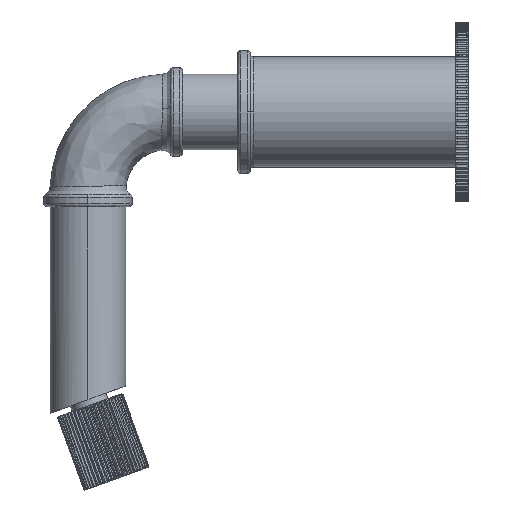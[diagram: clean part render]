
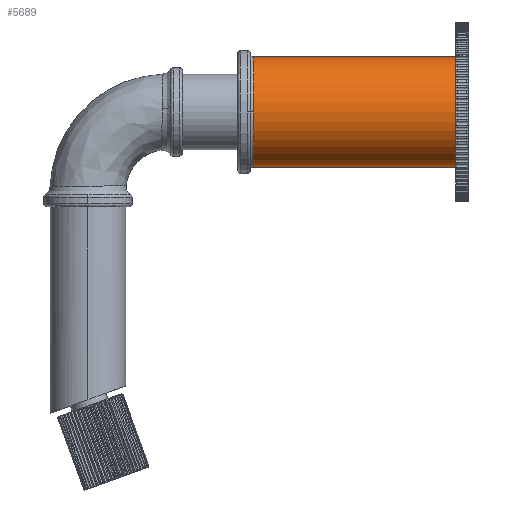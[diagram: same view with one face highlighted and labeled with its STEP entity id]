
A CAD part, left-side view. The second image highlights one B-rep face of the part: STEP entity #5689.
In plain terms, the highlighted cylindrical face has radius 17.5 mm (diameter 35 mm), a partial arc.
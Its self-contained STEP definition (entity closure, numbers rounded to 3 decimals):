
#759 = CARTESIAN_POINT ( 'NONE',  ( -9.893, 50.042, 0. ) ) ;
#3966 = EDGE_CURVE ( 'NONE', #54309, #91614, #57891, .T. ) ;
#4179 = CARTESIAN_POINT ( 'NONE',  ( 7.607, -13.968, 17.5 ) ) ;
#4781 = DIRECTION ( 'NONE',  ( 0., -1., 0. ) ) ;
#5003 = DIRECTION ( 'NONE',  ( 0., 0., -1. ) ) ;
#5689 = ADVANCED_FACE ( 'NONE', ( #82332 ), #8721, .T. ) ;
#8116 = DIRECTION ( 'NONE',  ( 0., -1., 0. ) ) ;
#8721 = CYLINDRICAL_SURFACE ( 'NONE', #93021, 17.5 ) ;
#11372 = ORIENTED_EDGE ( 'NONE', *, *, #92137, .T. ) ;
#13049 = CARTESIAN_POINT ( 'NONE',  ( 7.607, 50.042, 0. ) ) ;
#20449 = DIRECTION ( 'NONE',  ( 0., -1., 0. ) ) ;
#24754 = EDGE_CURVE ( 'NONE', #88185, #80532, #98020, .T. ) ;
#26191 = CARTESIAN_POINT ( 'NONE',  ( 7.607, 50.042, 17.5 ) ) ;
#27005 = CARTESIAN_POINT ( 'NONE',  ( 7.607, -13.968, 0. ) ) ;
#29584 = LINE ( 'NONE', #66679, #119625 ) ;
#30025 = EDGE_CURVE ( 'NONE', #100033, #91614, #105134, .T. ) ;
#35729 = EDGE_CURVE ( 'NONE', #80532, #54309, #29584, .T. ) ;
#37979 = ORIENTED_EDGE ( 'NONE', *, *, #35729, .T. ) ;
#42573 = DIRECTION ( 'NONE',  ( 0., 0., -1. ) ) ;
#51236 = DIRECTION ( 'NONE',  ( 0., -1., 0. ) ) ;
#54309 = VERTEX_POINT ( 'NONE', #84359 ) ;
#55036 = AXIS2_PLACEMENT_3D ( 'NONE', #70106, #51236, #5003 ) ;
#57891 = CIRCLE ( 'NONE', #73455, 17.5 ) ;
#60212 = DIRECTION ( 'NONE',  ( 0., 1., 0. ) ) ;
#63312 = ORIENTED_EDGE ( 'NONE', *, *, #3966, .T. ) ;
#66679 = CARTESIAN_POINT ( 'NONE',  ( 7.607, -13.968, -17.5 ) ) ;
#67820 = DIRECTION ( 'NONE',  ( 0., 0., -1. ) ) ;
#68736 = CARTESIAN_POINT ( 'NONE',  ( 7.607, -13.968, 0. ) ) ;
#69008 = DIRECTION ( 'NONE',  ( 0., -1., 0. ) ) ;
#70106 = CARTESIAN_POINT ( 'NONE',  ( 7.607, 50.042, 0. ) ) ;
#72034 = DIRECTION ( 'NONE',  ( 0., 0., -1. ) ) ;
#73432 = CARTESIAN_POINT ( 'NONE',  ( 7.607, 50.042, -17.5 ) ) ;
#73455 = AXIS2_PLACEMENT_3D ( 'NONE', #68736, #60212, #42573 ) ;
#74712 = AXIS2_PLACEMENT_3D ( 'NONE', #13049, #69008, #67820 ) ;
#75199 = CARTESIAN_POINT ( 'NONE',  ( 7.607, -13.968, 17.5 ) ) ;
#76483 = VECTOR ( 'NONE', #4781, 1000. ) ;
#78378 = EDGE_LOOP ( 'NONE', ( #96706, #11372, #118598, #37979, #63312 ) ) ;
#80532 = VERTEX_POINT ( 'NONE', #73432 ) ;
#82332 = FACE_OUTER_BOUND ( 'NONE', #78378, .T. ) ;
#84094 = CIRCLE ( 'NONE', #55036, 17.5 ) ;
#84359 = CARTESIAN_POINT ( 'NONE',  ( 7.607, -13.968, -17.5 ) ) ;
#88185 = VERTEX_POINT ( 'NONE', #759 ) ;
#91614 = VERTEX_POINT ( 'NONE', #75199 ) ;
#92137 = EDGE_CURVE ( 'NONE', #100033, #88185, #84094, .T. ) ;
#93021 = AXIS2_PLACEMENT_3D ( 'NONE', #27005, #8116, #72034 ) ;
#96706 = ORIENTED_EDGE ( 'NONE', *, *, #30025, .F. ) ;
#98020 = CIRCLE ( 'NONE', #74712, 17.5 ) ;
#100033 = VERTEX_POINT ( 'NONE', #26191 ) ;
#105134 = LINE ( 'NONE', #4179, #76483 ) ;
#118598 = ORIENTED_EDGE ( 'NONE', *, *, #24754, .T. ) ;
#119625 = VECTOR ( 'NONE', #20449, 1000. ) ;
